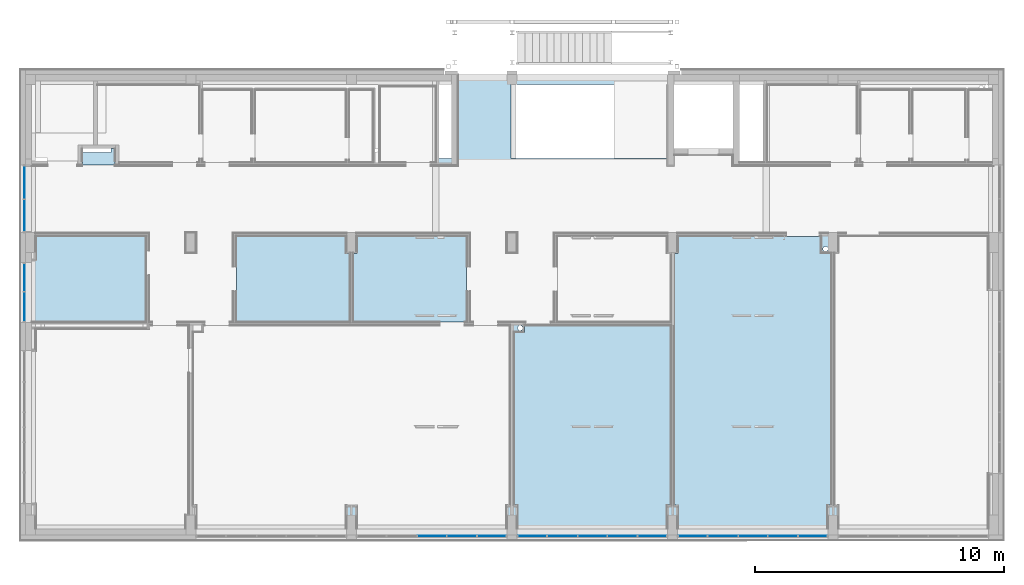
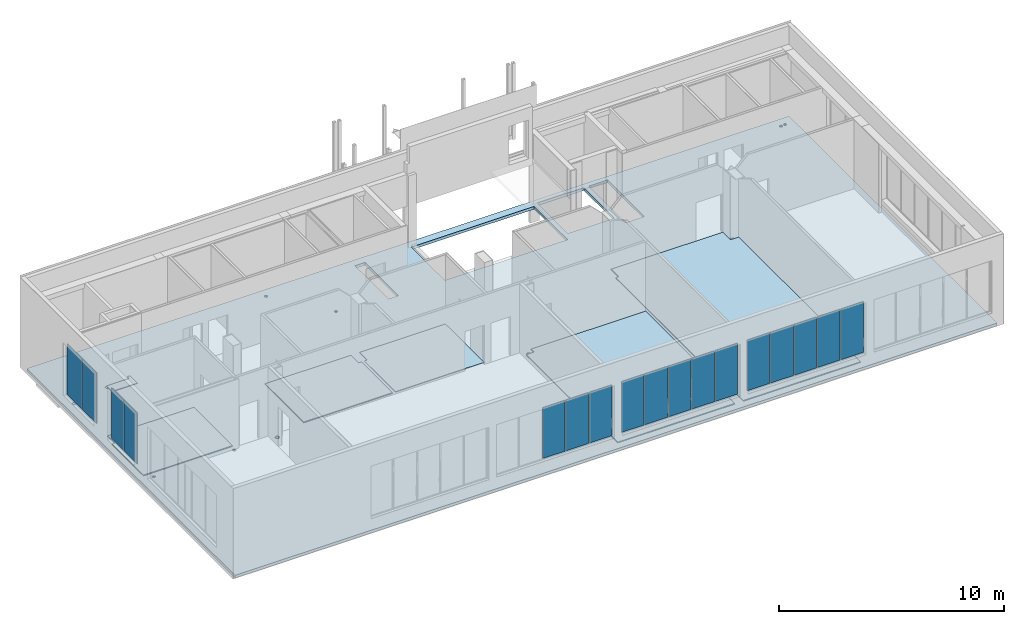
# One storey, part 13 of 29: 17 plates, 7 slabs, 15 openings, 5 elements without a shape of their own.
"""IFC2X3 building model written with IfcOpenShell, lengths in centimetres."""

from ifc_helpers import new_model, entity, si_unit, converted_unit, derived_unit, direction, frame, frame_2d, origin, origin_2d_with_axis, place, context, subcontext, project, spatial, polyline, rectangle, circle, outline, extrude, source, transform, mapped, material, layer, layer_set, layer_usage, type_object, type_shapes, element, aggregate, save


model = new_model("IFC2X3")

# Units and contexts
model_context = context("Model", 3, precision=0.001, world=origin(), true_north=direction((6.12303176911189e-17, 1.0)))
body_context = subcontext(model_context, "Body", "Model", "MODEL_VIEW")
ifc_project = project(units=[si_unit("LENGTHUNIT", "METRE", prefix="CENTI"), si_unit("AREAUNIT", "SQUARE_METRE"), si_unit("VOLUMEUNIT", "CUBIC_METRE"), converted_unit("PLANEANGLEUNIT", "DEGREE", entity("IfcRatioMeasure", 0.0174532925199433), si_unit("PLANEANGLEUNIT", "RADIAN"), dimensions=[0, 0, 0, 0, 0, 0, 0]), si_unit("MASSUNIT", "GRAM", prefix="KILO"), derived_unit("MASSDENSITYUNIT", [(si_unit("MASSUNIT", "GRAM", prefix="KILO"), 1), (si_unit("LENGTHUNIT", "METRE"), -3)]), derived_unit("MOMENTOFINERTIAUNIT", [(si_unit("LENGTHUNIT", "METRE"), 4)]), si_unit("TIMEUNIT", "SECOND"), si_unit("FREQUENCYUNIT", "HERTZ"), si_unit("THERMODYNAMICTEMPERATUREUNIT", "DEGREE_CELSIUS"), derived_unit("THERMALTRANSMITTANCEUNIT", [(si_unit("MASSUNIT", "GRAM", prefix="KILO"), 1), (si_unit("THERMODYNAMICTEMPERATUREUNIT", "KELVIN"), -1), (si_unit("TIMEUNIT", "SECOND"), -3)]), derived_unit("VOLUMETRICFLOWRATEUNIT", [(si_unit("LENGTHUNIT", "METRE"), 3), (si_unit("TIMEUNIT", "SECOND"), -1)]), si_unit("ELECTRICCURRENTUNIT", "AMPERE"), si_unit("ELECTRICVOLTAGEUNIT", "VOLT"), si_unit("POWERUNIT", "WATT"), si_unit("FORCEUNIT", "NEWTON", prefix="KILO"), si_unit("ILLUMINANCEUNIT", "LUX"), si_unit("LUMINOUSFLUXUNIT", "LUMEN"), si_unit("LUMINOUSINTENSITYUNIT", "CANDELA"), derived_unit("USERDEFINED", [(si_unit("MASSUNIT", "GRAM", prefix="KILO"), -1), (si_unit("LENGTHUNIT", "METRE"), -2), (si_unit("TIMEUNIT", "SECOND"), 3), (si_unit("LUMINOUSFLUXUNIT", "LUMEN"), 1)]), derived_unit("LINEARVELOCITYUNIT", [(si_unit("LENGTHUNIT", "METRE"), 1), (si_unit("TIMEUNIT", "SECOND"), -1)]), si_unit("PRESSUREUNIT", "PASCAL"), derived_unit("USERDEFINED", [(si_unit("LENGTHUNIT", "METRE"), -2), (si_unit("MASSUNIT", "GRAM", prefix="KILO"), 1), (si_unit("TIMEUNIT", "SECOND"), -2)]), derived_unit("LINEARFORCEUNIT", [(si_unit("MASSUNIT", "GRAM", prefix="KILO"), 1), (si_unit("LENGTHUNIT", "METRE"), 1), (si_unit("TIMEUNIT", "SECOND"), -2), (si_unit("LENGTHUNIT", "METRE"), -1)]), derived_unit("PLANARFORCEUNIT", [(si_unit("MASSUNIT", "GRAM", prefix="KILO"), 1), (si_unit("LENGTHUNIT", "METRE"), 1), (si_unit("TIMEUNIT", "SECOND"), -2), (si_unit("LENGTHUNIT", "METRE"), -2)])], contexts=[model_context])

# Site, building, storey
site_placement = place(None, origin())
site = spatial("IfcSite", under=ifc_project, at=site_placement, Name="Default", CompositionType="ELEMENT")
building_placement = place(site_placement, origin())
building = spatial("IfcBuilding", under=site, at=building_placement, CompositionType="ELEMENT")
storey_placement = place(building_placement, frame((0.0, 0.0, 545.0)))
storey = spatial("IfcBuildingStorey", under=building, at=storey_placement, Name="Poziom 1K +5,45", CompositionType="ELEMENT", Elevation=544.999999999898)

# Slab, openings
ifc_material_1 = material(Name="_Beton, C25/30")
ifc_layer_1 = layer(ifc_material_1, 15.0)
ifc_layer_set_1 = layer_set([ifc_layer_1], Name="Strop:Strop żebetowy gr. 15cm")
ifc_layer_usage_1 = layer_usage(ifc_layer_set_1, "AXIS3", "POSITIVE", 0.0)
slab_type_1 = type_object("IfcSlabType", Name="Strop:Strop żebetowy gr. 15cm", PredefinedType="FLOOR", material=ifc_layer_set_1)
slab_1_placement = place(storey_placement, frame((-2934.26510657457, 255.12765760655, -15.0)))
slab_1 = element("IfcSlab", 1, at=slab_1_placement, inside=storey, type_object=slab_type_1, material=ifc_layer_usage_1, Name="Strop:Strop żebetowy gr. 15cm", ObjectType="Strop:Strop żebetowy gr. 15cm", PredefinedType="FLOOR", context=body_context, shape_type="SweptSolid", body=[
    extrude(rectangle(XDim=1849.99979298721, YDim=3909.99999763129, at=frame_2d((0.0, 0.0), x_axis=(0.0, -1.0))), frame((1955.0, 924.999896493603, 15.0), z_axis=(0.0, 0.0, -1.0), x_axis=(-1.0, 0.0, 0.0)), (0.0, 0.0, 1.0), 14.9999999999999),
])
opening_1_placement = place(slab_1_placement, frame((1687.00061930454, 1661.49979442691, 15.0)))
element("IfcOpeningElement", 2, at=opening_1_placement, cuts=slab_1, Name="Strop:Strop żebetowy gr. 15cm:2", ObjectType="Opening", context=body_context, shape_type="SweptSolid", body=[
    extrude(rectangle(XDim=297.000000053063, YDim=50.99878747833, at=origin_2d_with_axis()), frame((0.0, 0.0, 0.0), z_axis=(0.0, 0.0, 1.0), x_axis=(0.0, -1.0, 0.0)), (0.0, 0.0, -1.0), 14.9999999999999),
])
opening_2_placement = place(slab_1_placement, frame((2916.49999573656, 1661.49979383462, 15.0)))
element("IfcOpeningElement", 3, at=opening_2_placement, cuts=slab_1, Name="Strop:Strop żebetowy gr. 15cm:3", ObjectType="Opening", context=body_context, shape_type="SweptSolid", body=[
    extrude(rectangle(XDim=95.9999999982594, YDim=326.99999834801, at=origin_2d_with_axis()), frame((0.0, 0.0, 0.0), z_axis=(0.0, 0.0, -1.0), x_axis=(1.0, 0.0, 0.0)), (0.0, 0.0, 1.0), 14.9999999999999),
])
opening_3_placement = place(slab_1_placement, frame((2724.25005613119, 1689.28216395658, 15.0)))
element("IfcOpeningElement", 4, at=opening_3_placement, cuts=slab_1, Name="Strop:Strop żebetowy gr. 15cm:4", ObjectType="Opening", context=body_context, shape_type="SweptSolid", body=[
    extrude(rectangle(XDim=271.435258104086, YDim=238.500123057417, at=origin_2d_with_axis()), frame((0.0, 0.0, 0.0), z_axis=(0.0, 0.0, 1.0), x_axis=(0.0, -1.0, 0.0)), (0.0, 0.0, -1.0), 14.9999999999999),
])
opening_4_placement = place(slab_1_placement, frame((2265.0, 1661.49979442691, 15.0)))
element("IfcOpeningElement", 5, at=opening_4_placement, cuts=slab_1, Name="Strop:Strop żebetowy gr. 15cm:5", ObjectType="Opening", context=body_context, shape_type="SweptSolid", body=[
    extrude(rectangle(XDim=297.000000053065, YDim=629.999981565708, at=origin_2d_with_axis()), frame((0.0, 0.0, 0.0), z_axis=(0.0, 0.0, -1.0), x_axis=(0.0, -1.0, 0.0)), (0.0, 0.0, 1.0), 14.9999999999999),
])
opening_5_placement = place(slab_1_placement, frame((286.500004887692, 1545.49979399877, 15.0)))
element("IfcOpeningElement", 6, at=opening_5_placement, cuts=slab_1, Name="Strop:Strop żebetowy gr. 15cm:6", ObjectType="Opening", context=body_context, shape_type="SweptSolid", body=[
    extrude(rectangle(XDim=14.9999999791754, YDim=114.999987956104, at=origin_2d_with_axis()), frame((0.0, 0.0, 0.0), z_axis=(0.0, 0.0, -1.0), x_axis=(0.0, -1.0, 0.0)), (0.0, 0.0, 1.0), 14.9999999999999),
])
opening_6_placement = place(slab_1_placement, frame((63.2500095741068, 1510.49979410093, 15.0)))
element("IfcOpeningElement", 7, at=opening_6_placement, cuts=slab_1, Name="Strop:Strop żebetowy gr. 15cm:7", ObjectType="Opening", context=body_context, shape_type="SweptSolid", body=[
    extrude(rectangle(XDim=14.9999998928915, YDim=46.5000026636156, at=origin_2d_with_axis()), frame((0.0, 0.0, 0.0), z_axis=(0.0, 0.0, -1.0), x_axis=(0.0, -1.0, 0.0)), (0.0, 0.0, 1.0), 14.9999999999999),
])
opening_7_placement = place(slab_1_placement, frame((1987.49999101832, 831.999794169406, 15.0)))
element("IfcOpeningElement", 8, at=opening_7_placement, cuts=slab_1, Name="Strop:Strop żebetowy gr. 15cm:8", ObjectType="Opening", context=body_context, shape_type="SweptSolid", body=[
    extrude(circle(Radius=10.0000005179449, at=origin_2d_with_axis()), frame((0.0, 0.0, 0.0), z_axis=(0.0, 0.0, -1.0), x_axis=(1.0, 0.0, 0.0)), (0.0, 0.0, 1.0), 14.9999999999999),
])
opening_8_placement = place(slab_1_placement, frame((1199.99998603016, 1802.49979447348, 15.0)))
element("IfcOpeningElement", 9, at=opening_8_placement, cuts=slab_1, Name="Strop:Strop żebetowy gr. 15cm:9", ObjectType="Opening", context=body_context, shape_type="SweptSolid", body=[
    extrude(circle(Radius=7.50000000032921, at=origin_2d_with_axis()), frame((0.0, 0.0, 0.0), z_axis=(0.0, 0.0, -1.0), x_axis=(1.0, 0.0, 0.0)), (0.0, 0.0, 1.0), 14.9999999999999),
])
opening_9_placement = place(slab_1_placement, frame((1409.99998910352, 1545.49979444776, 15.0)))
element("IfcOpeningElement", 10, at=opening_9_placement, cuts=slab_1, Name="Strop:Strop żebetowy gr. 15cm:10", ObjectType="Opening", context=body_context, shape_type="SweptSolid", body=[
    extrude(circle(Radius=7.50000000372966, at=origin_2d_with_axis()), frame((0.0, 0.0, 0.0), z_axis=(0.0, 0.0, -1.0), x_axis=(1.0, 0.0, 0.0)), (0.0, 0.0, 1.0), 14.9999999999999),
])
opening_10_placement = place(slab_1_placement, frame((70.0, 841.999794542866, 15.0)))
element("IfcOpeningElement", 11, at=opening_10_placement, cuts=slab_1, Name="Strop:Strop żebetowy gr. 15cm:11", ObjectType="Opening", context=body_context, shape_type="SweptSolid", body=[
    extrude(circle(Radius=7.5, at=origin_2d_with_axis()), frame((0.0, 0.0, 0.0), z_axis=(0.0, 0.0, -1.0), x_axis=(1.0, 0.0, 0.0)), (0.0, 0.0, 1.0), 14.9999999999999),
])
opening_11_placement = place(slab_1_placement, frame((482.499980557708, 841.999794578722, 15.0)))
element("IfcOpeningElement", 12, at=opening_11_placement, cuts=slab_1, Name="Strop:Strop żebetowy gr. 15cm:12", ObjectType="Opening", context=body_context, shape_type="SweptSolid", body=[
    extrude(circle(Radius=7.50000000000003, at=origin_2d_with_axis()), frame((0.0, 0.0, 0.0), z_axis=(0.0, 0.0, -1.0), x_axis=(1.0, 0.0, 0.0)), (0.0, 0.0, 1.0), 14.9999999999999),
])
opening_12_placement = place(slab_1_placement, frame((697.499990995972, 831.999794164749, 15.0)))
element("IfcOpeningElement", 13, at=opening_12_placement, cuts=slab_1, Name="Strop:Strop żebetowy gr. 15cm:13", ObjectType="Opening", context=body_context, shape_type="SweptSolid", body=[
    extrude(circle(Radius=10.0, at=origin_2d_with_axis()), frame((0.0, 0.0, 0.0), z_axis=(0.0, 0.0, -1.0), x_axis=(1.0, 0.0, 0.0)), (0.0, 0.0, 1.0), 14.9999999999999),
])
opening_13_placement = place(slab_1_placement, frame((3214.99997442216, 1149.9997945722, 15.0)))
element("IfcOpeningElement", 14, at=opening_13_placement, cuts=slab_1, Name="Strop:Strop żebetowy gr. 15cm:14", ObjectType="Opening", context=body_context, shape_type="SweptSolid", body=[
    extrude(circle(Radius=10.0000000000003, at=origin_2d_with_axis()), frame((0.0, 0.0, 0.0), z_axis=(0.0, 0.0, -1.0), x_axis=(1.0, 0.0, 0.0)), (0.0, 0.0, 1.0), 14.9999999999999),
])
opening_14_placement = place(slab_1_placement, frame((3862.49998603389, 1802.49979447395, 15.0)))
element("IfcOpeningElement", 15, at=opening_14_placement, cuts=slab_1, Name="Strop:Strop żebetowy gr. 15cm:15", ObjectType="Opening", context=body_context, shape_type="SweptSolid", body=[
    extrude(circle(Radius=7.49999999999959, at=origin_2d_with_axis()), frame((0.0, 0.0, 0.0), z_axis=(0.0, 0.0, -1.0), x_axis=(1.0, 0.0, 0.0)), (0.0, 0.0, 1.0), 14.9999999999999),
])
opening_15_placement = place(slab_1_placement, frame((3839.99998290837, 1799.99979444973, 15.0)))
element("IfcOpeningElement", 16, at=opening_15_placement, cuts=slab_1, Name="Strop:Strop żebetowy gr. 15cm:16", ObjectType="Opening", context=body_context, shape_type="SweptSolid", body=[
    extrude(circle(Radius=7.50000000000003, at=origin_2d_with_axis()), frame((0.0, 0.0, 0.0), z_axis=(0.0, 0.0, -1.0), x_axis=(1.0, 0.0, 0.0)), (0.0, 0.0, 1.0), 14.9999999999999),
])

# Slabs
ifc_material_2 = material(Name="Panel płyty podłogowej")
ifc_layer_2 = layer(ifc_material_2, 4.0)
ifc_layer_set_2 = layer_set([ifc_layer_2], Name="Strop:Podłoga podniesiona gr. 4cm")
ifc_layer_usage_2 = layer_usage(ifc_layer_set_2, "AXIS3", "POSITIVE", 0.0)
slab_type_2 = type_object("IfcSlabType", Name="Strop:Podłoga podniesiona gr. 4cm", PredefinedType="FLOOR", material=ifc_layer_set_2)
slab_2_placement = place(storey_placement, origin())
element("IfcSlab", 17, at=slab_2_placement, inside=storey, type_object=slab_type_2, material=ifc_layer_usage_2, Name="Strop:Podłoga podniesiona gr. 4cm", ObjectType="Strop:Podłoga podniesiona gr. 4cm", PredefinedType="FLOOR", context=body_context, shape_type="SweptSolid", body=[
    extrude(outline(polyline([(-207.0, -157.500247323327), (71.0, -157.500247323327), (71.0, -142.500247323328), (136.0, -142.500247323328), (136.0, 300.000494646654), (-207.0, 300.000494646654), (-207.0, -157.500247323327)])), frame((-2751.76485925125, 1319.1274521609, 15.0), z_axis=(0.0, 0.0, -1.0), x_axis=(0.0, 1.0, 0.0)), (0.0, 0.0, 1.0), 3.99999999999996),
])
ifc_layer_usage_3 = layer_usage(ifc_layer_set_2, "AXIS3", "POSITIVE", 0.0)
slab_type_3 = type_object("IfcSlabType", Name="Strop:Podłoga podniesiona gr. 4cm", PredefinedType="FLOOR", material=ifc_layer_set_2)
slab_3_placement = place(storey_placement, origin())
element("IfcSlab", 18, at=slab_3_placement, inside=storey, type_object=slab_type_3, material=ifc_layer_usage_3, Name="Strop:Podłoga podniesiona gr. 4cm", ObjectType="Strop:Podłoga podniesiona gr. 4cm", PredefinedType="FLOOR", context=body_context, shape_type="SweptSolid", body=[
    extrude(outline(polyline([(-501.666700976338, -310.416664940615), (510.833299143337, -310.416664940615), (510.833299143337, -295.416664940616), (578.333299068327, -295.416664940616), (578.333299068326, 277.083329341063), (510.833299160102, 277.083329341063), (510.833299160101, 319.583330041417), (-501.666700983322, 319.583330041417), (-501.666700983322, 304.583335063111), (-596.666495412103, 304.583335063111), (-596.666495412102, -295.41666456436), (-501.666700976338, -295.41666456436), (-501.666700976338, -310.416664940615)])), frame((-16.3484556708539, 876.794153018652, 15.0), z_axis=(0.0, 0.0, -1.0), x_axis=(0.0, 1.0, 0.0)), (0.0, 0.0, 1.0), 3.99999999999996),
])
ifc_layer_usage_4 = layer_usage(ifc_layer_set_2, "AXIS3", "POSITIVE", 0.0)
slab_type_4 = type_object("IfcSlabType", Name="Strop:Podłoga podniesiona gr. 4cm", PredefinedType="FLOOR", material=ifc_layer_set_2)
slab_4_placement = place(storey_placement, origin())
element("IfcSlab", 19, at=slab_4_placement, inside=storey, type_object=slab_type_4, material=ifc_layer_usage_4, Name="Strop:Podłoga podniesiona gr. 4cm", ObjectType="Strop:Podłoga podniesiona gr. 4cm", PredefinedType="FLOOR", context=body_context, shape_type="SweptSolid", body=[
    extrude(outline(polyline([(-206.166666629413, -298.333329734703), (136.833333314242, -298.333329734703), (136.833333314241, 141.666664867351), (69.3333333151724, 141.666664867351), (69.3333333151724, 156.666664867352), (-206.166666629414, 156.666664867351), (-206.166666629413, -298.333329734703)])), frame((-1788.4317854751, 1318.29411878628, 15.0), z_axis=(0.0, 0.0, -1.0), x_axis=(0.0, 1.0, 0.0)), (0.0, 0.0, 1.0), 3.99999999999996),
])
ifc_layer_usage_5 = layer_usage(ifc_layer_set_2, "AXIS3", "POSITIVE", 0.0)
slab_type_5 = type_object("IfcSlabType", Name="Strop:Podłoga podniesiona gr. 4cm", PredefinedType="FLOOR", material=ifc_layer_set_2)
slab_5_placement = place(storey_placement, origin())
element("IfcSlab", 20, at=slab_5_placement, inside=storey, type_object=slab_type_5, material=ifc_layer_usage_5, Name="Strop:Podłoga podniesiona gr. 4cm", ObjectType="Strop:Podłoga podniesiona gr. 4cm", PredefinedType="FLOOR", context=body_context, shape_type="SweptSolid", body=[
    extrude(outline(polyline([(-264.300041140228, -258.500001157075), (430.199958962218, -258.500001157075), (430.199958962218, -218.499995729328), (457.699958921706, -218.499995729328), (457.699958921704, 368.999998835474), (-264.300041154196, 368.999998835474), (-264.300041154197, 353.999998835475), (-359.299835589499, 353.999998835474), (-359.299835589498, -246.000000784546), (-264.300041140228, -246.000000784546), (-264.300041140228, -258.500001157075)])), frame((-710.765119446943, 639.427493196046, 15.0), z_axis=(0.0, 0.0, -1.0), x_axis=(0.0, 1.0, 0.0)), (0.0, 0.0, 1.0), 3.99999999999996),
])

# Curtain wall, plates
curtain_wall_type_1 = type_object("IfcCurtainWallType", PredefinedType="NOTDEFINED")
curtain_wall_1_placement = place(storey_placement, frame((0.0, 0.0, -545.0)))
curtain_wall_1 = element("IfcCurtainWall", 21, at=curtain_wall_1_placement, inside=storey, type_object=curtain_wall_type_1)
ifc_material_3 = material(Name="Szkło")
plate_type_1 = type_object("IfcPlateType", Name="Panel systemowy:Przeszklony", PredefinedType="CURTAIN_PANEL", material=ifc_material_3)
shared_shape_1 = source(origin(), body_context, "Body", "SweptSolid", [
    extrude(rectangle(XDim=2.5, YDim=109.500170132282, at=origin_2d_with_axis()), frame((0.0, 0.0, 0.0), z_axis=(0.0, 0.0, 1.0), x_axis=(0.0, 1.0, 0.0)), (0.0, 0.0, 1.0), 274.999999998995),
])
type_shapes(plate_type_1, [shared_shape_1])
plate_1_placement = place(curtain_wall_1_placement, frame((-2938.26510657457, 1290.37736702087, 630.0), z_axis=(0.0, 0.0, 1.0), x_axis=(0.0, -1.0, 0.0)))
plate_1 = element("IfcPlate", 22, at=plate_1_placement, type_object=plate_type_1, material=ifc_material_3, Name="Panel systemowy:Przeszklony", ObjectType="Panel systemowy:Przeszklony", context=body_context, shape_type="MappedRepresentation", body=[
    mapped(shared_shape_1, transform((0.0, 0.0, 0.0), scale=1.0)),
])
plate_type_2 = type_object("IfcPlateType", Name="Panel systemowy:Przeszklony", PredefinedType="CURTAIN_PANEL", material=ifc_material_3)
shared_shape_2 = source(origin(), body_context, "Body", "SweptSolid", [
    extrude(rectangle(XDim=2.5, YDim=115.99983111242, at=origin_2d_with_axis()), frame((0.0, 0.0, 0.0), z_axis=(0.0, 0.0, 1.0), x_axis=(0.0, 1.0, 0.0)), (0.0, 0.0, 1.0), 274.999999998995),
])
type_shapes(plate_type_2, [shared_shape_2])
plate_2_placement = place(curtain_wall_1_placement, frame((-2938.26510657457, 1172.62736639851, 630.0), z_axis=(0.0, 0.0, 1.0), x_axis=(0.0, -1.0, 0.0)))
plate_2 = element("IfcPlate", 23, at=plate_2_placement, type_object=plate_type_2, material=ifc_material_3, Name="Panel systemowy:Przeszklony", ObjectType="Panel systemowy:Przeszklony", context=body_context, shape_type="MappedRepresentation", body=[
    mapped(shared_shape_2, transform((0.0, 0.0, 0.0), scale=1.0)),
])
aggregate(curtain_wall_1, [plate_1, plate_2])

# Curtain wall, plate
curtain_wall_2_placement = place(storey_placement, frame((0.0, 0.0, -545.0)))
curtain_wall_2 = element("IfcCurtainWall", 24, at=curtain_wall_2_placement, inside=storey, type_object=curtain_wall_type_1)
plate_type_3 = type_object("IfcPlateType", Name="Panel systemowy:Przeszklony", PredefinedType="CURTAIN_PANEL", material=ifc_material_3)
shared_shape_3 = source(origin(), body_context, "Body", "SweptSolid", [
    extrude(rectangle(XDim=2.5, YDim=118.4999790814, at=frame_2d((0.0, 3.5527136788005e-15), x_axis=(1.0, 0.0))), frame((0.0, 0.0, 0.0), z_axis=(0.0, 0.0, 1.0), x_axis=(0.0, 1.0, 0.0)), (0.0, 0.0, 1.0), 274.99999999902),
])
type_shapes(plate_type_3, [shared_shape_3])
plate_3_placement = place(curtain_wall_2_placement, frame((-776.512211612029, 251.127657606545, 630.0)))
plate_3 = element("IfcPlate", 25, at=plate_3_placement, type_object=plate_type_3, material=ifc_material_3, Name="Panel systemowy:Przeszklony", ObjectType="Panel systemowy:Przeszklony", context=body_context, shape_type="MappedRepresentation", body=[
    mapped(shared_shape_3, transform((0.0, 0.0, 0.0), scale=1.0)),
])

curtain_wall_3_placement = place(storey_placement, frame((0.0, 0.0, -545.0)))
curtain_wall_3 = element("IfcCurtainWall", 26, at=curtain_wall_3_placement, inside=storey, type_object=curtain_wall_type_1)
plate_4_placement = place(curtain_wall_3_placement, frame((-131.512211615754, 251.127657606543, 630.0)))
plate_4 = element("IfcPlate", 27, at=plate_4_placement, type_object=plate_type_3, material=ifc_material_3, Name="Panel systemowy:Przeszklony", ObjectType="Panel systemowy:Przeszklony", context=body_context, shape_type="MappedRepresentation", body=[
    mapped(shared_shape_3, transform((0.0, 0.0, 0.0), scale=1.0)),
])

curtain_wall_4_placement = place(storey_placement, frame((0.0, 0.0, -545.0)))
curtain_wall_4 = element("IfcCurtainWall", 28, at=curtain_wall_4_placement, inside=storey, type_object=curtain_wall_type_1)
plate_type_4 = type_object("IfcPlateType", Name="Panel systemowy:Przeszklony", PredefinedType="CURTAIN_PANEL", material=ifc_material_3)
shared_shape_4 = source(origin(), body_context, "Body", "SweptSolid", [
    extrude(rectangle(XDim=2.5, YDim=113.500007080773, at=origin_2d_with_axis()), frame((0.0, 0.0, 0.0), z_axis=(0.0, 0.0, 1.0), x_axis=(0.0, 1.0, 0.0)), (0.0, 0.0, 1.0), 274.99999999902),
])
type_shapes(plate_type_4, [shared_shape_4])
plate_5_placement = place(curtain_wall_4_placement, frame((-1300.51220463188, 251.127657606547, 630.0)))
plate_5 = element("IfcPlate", 29, at=plate_5_placement, type_object=plate_type_4, material=ifc_material_3, Name="Panel systemowy:Przeszklony", ObjectType="Panel systemowy:Przeszklony", context=body_context, shape_type="MappedRepresentation", body=[
    mapped(shared_shape_4, transform((0.0, 0.0, 0.0), scale=1.0)),
])

# Plate
plate_6_placement = place(curtain_wall_2_placement, frame((-655.512218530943, 251.127657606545, 630.0)))
plate_6 = element("IfcPlate", 30, at=plate_6_placement, type_object=plate_type_4, material=ifc_material_3, Name="Panel systemowy:Przeszklony", ObjectType="Panel systemowy:Przeszklony", context=body_context, shape_type="MappedRepresentation", body=[
    mapped(shared_shape_4, transform((0.0, 0.0, 0.0), scale=1.0)),
])

plate_7_placement = place(curtain_wall_3_placement, frame((-10.5122185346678, 251.127657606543, 630.0)))
plate_7 = element("IfcPlate", 31, at=plate_7_placement, type_object=plate_type_4, material=ifc_material_3, Name="Panel systemowy:Przeszklony", ObjectType="Panel systemowy:Przeszklony", context=body_context, shape_type="MappedRepresentation", body=[
    mapped(shared_shape_4, transform((0.0, 0.0, 0.0), scale=1.0)),
])

plate_type_5 = type_object("IfcPlateType", Name="Panel systemowy:Przeszklony", PredefinedType="CURTAIN_PANEL", material=ifc_material_3)
shared_shape_5 = source(origin(), body_context, "Body", "SweptSolid", [
    extrude(rectangle(XDim=2.5, YDim=115.999999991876, at=origin_2d_with_axis()), frame((0.0, 0.0, 0.0), z_axis=(0.0, 0.0, 1.0), x_axis=(0.0, 1.0, 0.0)), (0.0, 0.0, 1.0), 274.99999999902),
])
type_shapes(plate_type_5, [shared_shape_5])
plate_8_placement = place(curtain_wall_4_placement, frame((-1180.76220109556, 251.127657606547, 630.0)))
plate_8 = element("IfcPlate", 32, at=plate_8_placement, type_object=plate_type_5, material=ifc_material_3, Name="Panel systemowy:Przeszklony", ObjectType="Panel systemowy:Przeszklony", context=body_context, shape_type="MappedRepresentation", body=[
    mapped(shared_shape_5, transform((0.0, 0.0, 0.0), scale=1.0)),
])

plate_9_placement = place(curtain_wall_2_placement, frame((-535.762214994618, 251.127657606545, 630.0)))
plate_9 = element("IfcPlate", 33, at=plate_9_placement, type_object=plate_type_5, material=ifc_material_3, Name="Panel systemowy:Przeszklony", ObjectType="Panel systemowy:Przeszklony", context=body_context, shape_type="MappedRepresentation", body=[
    mapped(shared_shape_5, transform((0.0, 0.0, 0.0), scale=1.0)),
])

plate_10_placement = place(curtain_wall_3_placement, frame((109.237785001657, 251.127657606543, 630.0)))
plate_10 = element("IfcPlate", 34, at=plate_10_placement, type_object=plate_type_5, material=ifc_material_3, Name="Panel systemowy:Przeszklony", ObjectType="Panel systemowy:Przeszklony", context=body_context, shape_type="MappedRepresentation", body=[
    mapped(shared_shape_5, transform((0.0, 0.0, 0.0), scale=1.0)),
])

plate_type_6 = type_object("IfcPlateType", Name="Panel systemowy:Przeszklony", PredefinedType="CURTAIN_PANEL", material=ifc_material_3)
shared_shape_6 = source(origin(), body_context, "Body", "SweptSolid", [
    extrude(rectangle(XDim=2.5, YDim=113.50290546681, at=origin_2d_with_axis()), frame((0.0, 0.0, 0.0), z_axis=(0.0, 0.0, 1.0), x_axis=(0.0, 1.0, 0.0)), (0.0, 0.0, 1.0), 274.99999999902),
])
type_shapes(plate_type_6, [shared_shape_6])
plate_11_placement = place(curtain_wall_3_placement, frame((-252.513653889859, 251.127657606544, 630.0)))
plate_11 = element("IfcPlate", 35, at=plate_11_placement, type_object=plate_type_6, material=ifc_material_3, Name="Panel systemowy:Przeszklony", ObjectType="Panel systemowy:Przeszklony", context=body_context, shape_type="MappedRepresentation", body=[
    mapped(shared_shape_6, transform((0.0, 0.0, 0.0), scale=1.0)),
])

plate_type_7 = type_object("IfcPlateType", Name="Panel systemowy:Przeszklony", PredefinedType="CURTAIN_PANEL", material=ifc_material_3)
shared_shape_7 = source(origin(), body_context, "Body", "SweptSolid", [
    extrude(rectangle(XDim=2.5, YDim=113.49709368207, at=origin_2d_with_axis()), frame((0.0, 0.0, 0.0), z_axis=(0.0, 0.0, 1.0), x_axis=(0.0, 1.0, 0.0)), (0.0, 0.0, 1.0), 274.99999999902),
])
type_shapes(plate_type_7, [shared_shape_7])
plate_12_placement = place(curtain_wall_4_placement, frame((-1061.01365425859, 251.127657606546, 630.0)))
plate_12 = element("IfcPlate", 36, at=plate_12_placement, type_object=plate_type_7, material=ifc_material_3, Name="Panel systemowy:Przeszklony", ObjectType="Panel systemowy:Przeszklony", context=body_context, shape_type="MappedRepresentation", body=[
    mapped(shared_shape_7, transform((0.0, 0.0, 0.0), scale=1.0)),
])

aggregate(curtain_wall_4, [plate_5, plate_8, plate_12])

plate_type_8 = type_object("IfcPlateType", Name="Panel systemowy:Przeszklony", PredefinedType="CURTAIN_PANEL", material=ifc_material_3)
shared_shape_8 = source(origin(), body_context, "Body", "SweptSolid", [
    extrude(rectangle(XDim=2.5, YDim=113.502919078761, at=frame_2d((0.0, 3.5527136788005e-15), x_axis=(1.0, 0.0))), frame((0.0, 0.0, 0.0), z_axis=(0.0, 0.0, 1.0), x_axis=(0.0, 1.0, 0.0)), (0.0, 0.0, 1.0), 274.99999999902),
])
type_shapes(plate_type_8, [shared_shape_8])
plate_13_placement = place(curtain_wall_2_placement, frame((-897.513660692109, 251.127657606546, 630.0)))
plate_13 = element("IfcPlate", 37, at=plate_13_placement, type_object=plate_type_8, material=ifc_material_3, Name="Panel systemowy:Przeszklony", ObjectType="Panel systemowy:Przeszklony", context=body_context, shape_type="MappedRepresentation", body=[
    mapped(shared_shape_8, transform((0.0, 0.0, 0.0), scale=1.0)),
])

plate_type_9 = type_object("IfcPlateType", Name="Panel systemowy:Przeszklony", PredefinedType="CURTAIN_PANEL", material=ifc_material_3)
shared_shape_9 = source(origin(), body_context, "Body", "SweptSolid", [
    extrude(rectangle(XDim=2.5, YDim=113.497107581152, at=origin_2d_with_axis()), frame((0.0, 0.0, 0.0), z_axis=(0.0, 0.0, 1.0), x_axis=(0.0, 1.0, 0.0)), (0.0, 0.0, 1.0), 274.99999999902),
])
type_shapes(plate_type_9, [shared_shape_9])
plate_14_placement = place(curtain_wall_2_placement, frame((-416.013661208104, 251.127657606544, 630.0)))
plate_14 = element("IfcPlate", 38, at=plate_14_placement, type_object=plate_type_9, material=ifc_material_3, Name="Panel systemowy:Przeszklony", ObjectType="Panel systemowy:Przeszklony", context=body_context, shape_type="MappedRepresentation", body=[
    mapped(shared_shape_9, transform((0.0, 0.0, 0.0), scale=1.0)),
])

aggregate(curtain_wall_2, [plate_13, plate_3, plate_6, plate_9, plate_14])

plate_type_10 = type_object("IfcPlateType", Name="Panel systemowy:Przeszklony", PredefinedType="CURTAIN_PANEL", material=ifc_material_3)
shared_shape_10 = source(origin(), body_context, "Body", "SweptSolid", [
    extrude(rectangle(XDim=2.5, YDim=113.497094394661, at=origin_2d_with_axis()), frame((0.0, 0.0, 0.0), z_axis=(0.0, 0.0, 1.0), x_axis=(0.0, 1.0, 0.0)), (0.0, 0.0, 1.0), 274.99999999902),
])
type_shapes(plate_type_10, [shared_shape_10])
plate_15_placement = place(curtain_wall_3_placement, frame((228.986332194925, 251.127657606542, 630.0)))
plate_15 = element("IfcPlate", 39, at=plate_15_placement, type_object=plate_type_10, material=ifc_material_3, Name="Panel systemowy:Przeszklony", ObjectType="Panel systemowy:Przeszklony", context=body_context, shape_type="MappedRepresentation", body=[
    mapped(shared_shape_10, transform((0.0, 0.0, 0.0), scale=1.0)),
])

aggregate(curtain_wall_3, [plate_11, plate_4, plate_7, plate_10, plate_15])

# Slab
ifc_material_4 = material(Name="Gres jasny")
ifc_layer_3 = layer(ifc_material_4, 2.0)
ifc_layer_set_3 = layer_set([ifc_layer_3], Name="Strop:Gres na kleju gr. 2cm techniczne")
ifc_layer_usage_6 = layer_usage(ifc_layer_set_3, "AXIS3", "POSITIVE", 0.0)
slab_type_6 = type_object("IfcSlabType", Name="Strop:Gres na kleju gr. 2cm techniczne", PredefinedType="FLOOR", material=ifc_layer_set_3)
slab_6_placement = place(storey_placement, frame((-2909.26510657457, 1743.12745160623, 13.0)))
element("IfcSlab", 40, at=slab_6_placement, inside=storey, type_object=slab_type_6, material=ifc_layer_usage_6, Name="Strop:Gres na kleju gr. 2cm techniczne:2", ObjectType="Strop:Gres na kleju gr. 2cm techniczne", PredefinedType="FLOOR", context=body_context, shape_type="SweptSolid", body=[
    extrude(outline(polyline([(-167.0000010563, -168.500000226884), (-37.0000284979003, -168.500000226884), (-37.0000284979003, -118.500000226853), (-151.999997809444, -118.500000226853), (-151.999997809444, -103.500000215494), (-167.0000010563, -103.500000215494), (-167.0000010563, -168.500000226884)])), frame((167.0000010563, 168.500000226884, 2.0), z_axis=(0.0, 0.0, -1.0), x_axis=(-1.0, 0.0, 0.0)), (0.0, 0.0, 1.0), 1.99999999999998),
])

# Curtain wall, plates
curtain_wall_type_2 = type_object("IfcCurtainWallType", PredefinedType="NOTDEFINED")
curtain_wall_5_placement = place(storey_placement, frame((0.0, 0.0, -545.0)))
curtain_wall_5 = element("IfcCurtainWall", 41, at=curtain_wall_5_placement, inside=storey, type_object=curtain_wall_type_2)
plate_type_11 = type_object("IfcPlateType", Name="Panel systemowy:Przeszklony", PredefinedType="CURTAIN_PANEL", material=ifc_material_3)
shared_shape_11 = source(origin(), body_context, "Body", "SweptSolid", [
    extrude(rectangle(XDim=2.5, YDim=131.000168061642, at=origin_2d_with_axis()), frame((0.0, 0.0, 0.0), z_axis=(0.0, 0.0, 1.0), x_axis=(0.0, 1.0, 0.0)), (0.0, 0.0, 1.0), 274.999999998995),
])
type_shapes(plate_type_11, [shared_shape_11])
plate_16_placement = place(curtain_wall_5_placement, frame((-2938.26510820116, 1672.62736658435, 630.0), z_axis=(0.0, 0.0, 1.0), x_axis=(0.0, -1.0, 0.0)))
plate_16 = element("IfcPlate", 42, at=plate_16_placement, type_object=plate_type_11, material=ifc_material_3, Name="Panel systemowy:Przeszklony", ObjectType="Panel systemowy:Przeszklony", context=body_context, shape_type="MappedRepresentation", body=[
    mapped(shared_shape_11, transform((0.0, 0.0, 0.0), scale=1.0)),
])
plate_type_12 = type_object("IfcPlateType", Name="Panel systemowy:Przeszklony", PredefinedType="CURTAIN_PANEL", material=ifc_material_3)
shared_shape_12 = source(origin(), body_context, "Body", "SweptSolid", [
    extrude(rectangle(XDim=2.5, YDim=126.999830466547, at=origin_2d_with_axis()), frame((0.0, 0.0, 0.0), z_axis=(0.0, 0.0, 1.0), x_axis=(0.0, 1.0, 0.0)), (0.0, 0.0, 1.0), 274.999999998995),
])
type_shapes(plate_type_12, [shared_shape_12])
plate_17_placement = place(curtain_wall_5_placement, frame((-2938.26510820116, 1538.62736732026, 630.0), z_axis=(0.0, 0.0, 1.0), x_axis=(0.0, -1.0, 0.0)))
plate_17 = element("IfcPlate", 43, at=plate_17_placement, type_object=plate_type_12, material=ifc_material_3, Name="Panel systemowy:Przeszklony", ObjectType="Panel systemowy:Przeszklony", context=body_context, shape_type="MappedRepresentation", body=[
    mapped(shared_shape_12, transform((0.0, 0.0, 0.0), scale=1.0)),
])
aggregate(curtain_wall_5, [plate_16, plate_17])

# Slab
ifc_material_5 = material(Name="Wykladzina winylowa (w plytkach) na kleju")
ifc_layer_4 = layer(ifc_material_5, 2.0)
ifc_layer_set_4 = layer_set([ifc_layer_4], Name="Strop:Wykladzina winylowa (w plytkach) na kleju gr.2cm 2")
ifc_layer_usage_7 = layer_usage(ifc_layer_set_4, "AXIS3", "POSITIVE", 0.0)
slab_type_7 = type_object("IfcSlabType", Name="Strop:Wykladzina winylowa (w plytkach) na kleju gr.2cm 2", PredefinedType="FLOOR", material=ifc_layer_set_4)
slab_7_placement = place(storey_placement, origin())
element("IfcSlab", 44, at=slab_7_placement, inside=storey, type_object=slab_type_7, material=ifc_layer_usage_7, Name="Strop:Wykladzina winylowa (w plytkach) na kleju gr.2cm 2", ObjectType="Strop:Wykladzina winylowa (w plytkach) na kleju gr.2cm 2", PredefinedType="FLOOR", context=body_context, shape_type="SweptSolid", body=[
    extrude(outline(polyline([(-206.166666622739, -156.666664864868), (69.3333332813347, -156.666664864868), (69.3333332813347, -141.666664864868), (136.833333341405, -141.666664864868), (136.833333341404, 298.333329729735), (-206.16666662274, 298.333329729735), (-206.166666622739, -156.666664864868)])), frame((-1460.09845574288, 1318.29411882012, 15.0), z_axis=(0.0, 0.0, -1.0), x_axis=(0.0, 1.0, 0.0)), (0.0, 0.0, 1.0), 1.99999999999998),
])

save(model, "model.ifc")
